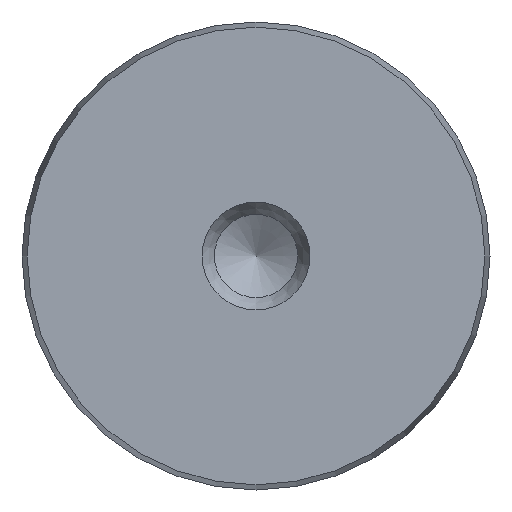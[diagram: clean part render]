
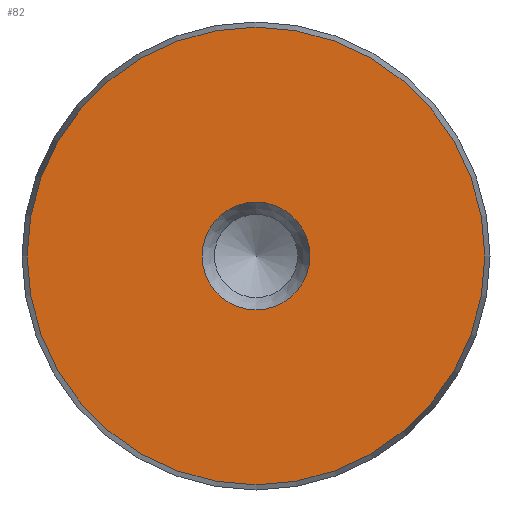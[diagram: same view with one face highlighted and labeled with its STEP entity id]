
A CAD part, front view. The second image highlights one B-rep face of the part: STEP entity #82.
In plain terms, the highlighted planar face has unit normal (0, -1, 0).
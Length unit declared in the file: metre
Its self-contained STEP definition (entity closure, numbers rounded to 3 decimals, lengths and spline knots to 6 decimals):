
#82 = ADVANCED_FACE( '', ( #108, #109 ), #110, .T. );
#108 = FACE_BOUND( '', #150, .T. );
#109 = FACE_OUTER_BOUND( '', #151, .T. );
#110 = PLANE( '', #152 );
#150 = EDGE_LOOP( '', ( #202 ) );
#151 = EDGE_LOOP( '', ( #203 ) );
#152 = AXIS2_PLACEMENT_3D( '', #204, #205, #206 );
#202 = ORIENTED_EDGE( '', *, *, #252, .T. );
#203 = ORIENTED_EDGE( '', *, *, #254, .T. );
#204 = CARTESIAN_POINT( '', ( 0., -0.1575, 0. ) );
#205 = DIRECTION( '', ( 0., -1., 0. ) );
#206 = DIRECTION( '', ( 0., 0., -1. ) );
#252 = EDGE_CURVE( '', #270, #270, #271, .F. );
#254 = EDGE_CURVE( '', #274, #274, #275, .T. );
#270 = VERTEX_POINT( '', #296 );
#271 = CIRCLE( '', #297, 0.004375 );
#274 = VERTEX_POINT( '', #300 );
#275 = CIRCLE( '', #301, 0.018578 );
#296 = CARTESIAN_POINT( '', ( 0., -0.1575, -0.004375 ) );
#297 = AXIS2_PLACEMENT_3D( '', #326, #327, #328 );
#300 = CARTESIAN_POINT( '', ( 0., -0.1575, -0.018578 ) );
#301 = AXIS2_PLACEMENT_3D( '', #332, #333, #334 );
#326 = CARTESIAN_POINT( '', ( 0., -0.1575, 0. ) );
#327 = DIRECTION( '', ( 0., -1., 0. ) );
#328 = DIRECTION( '', ( 0., 0., -1. ) );
#332 = CARTESIAN_POINT( '', ( 0., -0.1575, 0. ) );
#333 = DIRECTION( '', ( 0., -1., 0. ) );
#334 = DIRECTION( '', ( 0., 0., -1. ) );
